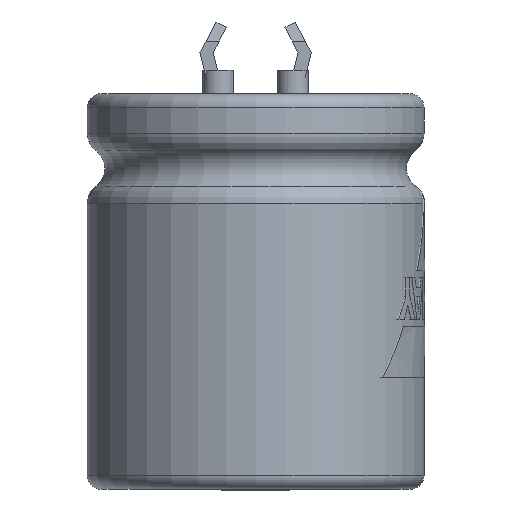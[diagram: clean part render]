
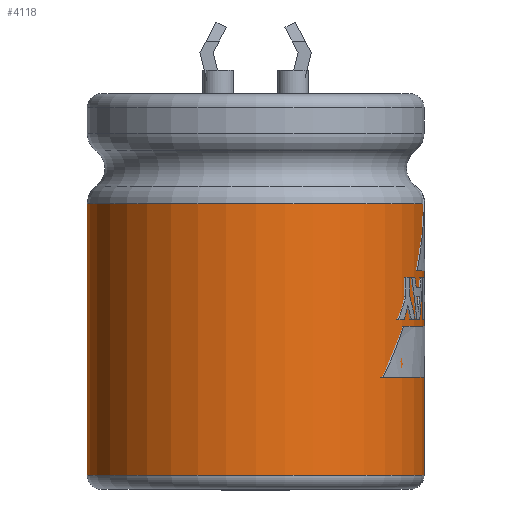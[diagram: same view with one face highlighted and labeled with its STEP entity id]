
A CAD part, left-side view. The second image highlights one B-rep face of the part: STEP entity #4118.
In plain terms, the highlighted cylindrical face has radius 11.5 mm (diameter 23 mm), a full revolution.
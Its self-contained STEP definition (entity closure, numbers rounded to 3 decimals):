
#4050 = TOROIDAL_SURFACE('',#4051,10.,1.5);
#4051 = AXIS2_PLACEMENT_3D('',#4052,#4053,#4054);
#4052 = CARTESIAN_POINT('',(0.,0.,-6.55));
#4053 = DIRECTION('',(0.,0.,1.));
#4054 = DIRECTION('',(1.,0.,0.));
#4066 = EDGE_CURVE('',#4067,#4067,#4069,.T.);
#4067 = VERTEX_POINT('',#4068);
#4068 = CARTESIAN_POINT('',(11.5,0.,
    -6.55));
#4069 = SURFACE_CURVE('',#4070,(#4075,#4082),.PCURVE_S1.);
#4070 = CIRCLE('',#4071,11.5);
#4071 = AXIS2_PLACEMENT_3D('',#4072,#4073,#4074);
#4072 = CARTESIAN_POINT('',(0.,0.,-6.55));
#4073 = DIRECTION('',(0.,0.,1.));
#4074 = DIRECTION('',(1.,0.,0.));
#4075 = PCURVE('',#4050,#4076);
#4076 = DEFINITIONAL_REPRESENTATION('',(#4077),#4081);
#4077 = LINE('',#4078,#4079);
#4078 = CARTESIAN_POINT('',(0.,0.));
#4079 = VECTOR('',#4080,1.);
#4080 = DIRECTION('',(1.,0.));
#4081 = ( GEOMETRIC_REPRESENTATION_CONTEXT(2) 
PARAMETRIC_REPRESENTATION_CONTEXT() REPRESENTATION_CONTEXT('2D SPACE',''
  ) );
#4082 = PCURVE('',#4083,#4088);
#4083 = CYLINDRICAL_SURFACE('',#4084,11.5);
#4084 = AXIS2_PLACEMENT_3D('',#4085,#4086,#4087);
#4085 = CARTESIAN_POINT('',(0.,0.,-25.1));
#4086 = DIRECTION('',(0.,0.,1.));
#4087 = DIRECTION('',(1.,0.,0.));
#4088 = DEFINITIONAL_REPRESENTATION('',(#4089),#4093);
#4089 = LINE('',#4090,#4091);
#4090 = CARTESIAN_POINT('',(0.,18.55));
#4091 = VECTOR('',#4092,1.);
#4092 = DIRECTION('',(1.,0.));
#4093 = ( GEOMETRIC_REPRESENTATION_CONTEXT(2) 
PARAMETRIC_REPRESENTATION_CONTEXT() REPRESENTATION_CONTEXT('2D SPACE',''
  ) );
#4118 = ADVANCED_FACE('',(#4119),#4083,.T.);
#4119 = FACE_BOUND('',#4120,.T.);
#4120 = EDGE_LOOP('',(#4121,#4150,#4171,#4172));
#4121 = ORIENTED_EDGE('',*,*,#4122,.T.);
#4122 = EDGE_CURVE('',#4123,#4123,#4125,.T.);
#4123 = VERTEX_POINT('',#4124);
#4124 = CARTESIAN_POINT('',(11.5,0.,-25.1));
#4125 = SURFACE_CURVE('',#4126,(#4131,#4138),.PCURVE_S1.);
#4126 = CIRCLE('',#4127,11.5);
#4127 = AXIS2_PLACEMENT_3D('',#4128,#4129,#4130);
#4128 = CARTESIAN_POINT('',(0.,0.,-25.1));
#4129 = DIRECTION('',(0.,0.,1.));
#4130 = DIRECTION('',(1.,0.,0.));
#4131 = PCURVE('',#4083,#4132);
#4132 = DEFINITIONAL_REPRESENTATION('',(#4133),#4137);
#4133 = LINE('',#4134,#4135);
#4134 = CARTESIAN_POINT('',(0.,0.));
#4135 = VECTOR('',#4136,1.);
#4136 = DIRECTION('',(1.,0.));
#4137 = ( GEOMETRIC_REPRESENTATION_CONTEXT(2) 
PARAMETRIC_REPRESENTATION_CONTEXT() REPRESENTATION_CONTEXT('2D SPACE',''
  ) );
#4138 = PCURVE('',#4139,#4144);
#4139 = TOROIDAL_SURFACE('',#4140,10.55,0.95);
#4140 = AXIS2_PLACEMENT_3D('',#4141,#4142,#4143);
#4141 = CARTESIAN_POINT('',(0.,0.,-25.1));
#4142 = DIRECTION('',(0.,0.,1.));
#4143 = DIRECTION('',(1.,0.,0.));
#4144 = DEFINITIONAL_REPRESENTATION('',(#4145),#4149);
#4145 = LINE('',#4146,#4147);
#4146 = CARTESIAN_POINT('',(0.,6.283));
#4147 = VECTOR('',#4148,1.);
#4148 = DIRECTION('',(1.,0.));
#4149 = ( GEOMETRIC_REPRESENTATION_CONTEXT(2) 
PARAMETRIC_REPRESENTATION_CONTEXT() REPRESENTATION_CONTEXT('2D SPACE',''
  ) );
#4150 = ORIENTED_EDGE('',*,*,#4151,.T.);
#4151 = EDGE_CURVE('',#4123,#4067,#4152,.T.);
#4152 = SEAM_CURVE('',#4153,(#4157,#4164),.PCURVE_S1.);
#4153 = LINE('',#4154,#4155);
#4154 = CARTESIAN_POINT('',(11.5,0.,-25.1));
#4155 = VECTOR('',#4156,1.);
#4156 = DIRECTION('',(0.,0.,1.));
#4157 = PCURVE('',#4083,#4158);
#4158 = DEFINITIONAL_REPRESENTATION('',(#4159),#4163);
#4159 = LINE('',#4160,#4161);
#4160 = CARTESIAN_POINT('',(0.,0.));
#4161 = VECTOR('',#4162,1.);
#4162 = DIRECTION('',(0.,1.));
#4163 = ( GEOMETRIC_REPRESENTATION_CONTEXT(2) 
PARAMETRIC_REPRESENTATION_CONTEXT() REPRESENTATION_CONTEXT('2D SPACE',''
  ) );
#4164 = PCURVE('',#4083,#4165);
#4165 = DEFINITIONAL_REPRESENTATION('',(#4166),#4170);
#4166 = LINE('',#4167,#4168);
#4167 = CARTESIAN_POINT('',(6.283,0.));
#4168 = VECTOR('',#4169,1.);
#4169 = DIRECTION('',(0.,1.));
#4170 = ( GEOMETRIC_REPRESENTATION_CONTEXT(2) 
PARAMETRIC_REPRESENTATION_CONTEXT() REPRESENTATION_CONTEXT('2D SPACE',''
  ) );
#4171 = ORIENTED_EDGE('',*,*,#4066,.F.);
#4172 = ORIENTED_EDGE('',*,*,#4151,.F.);
